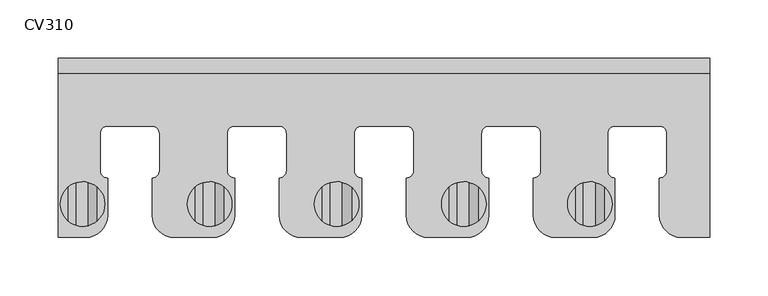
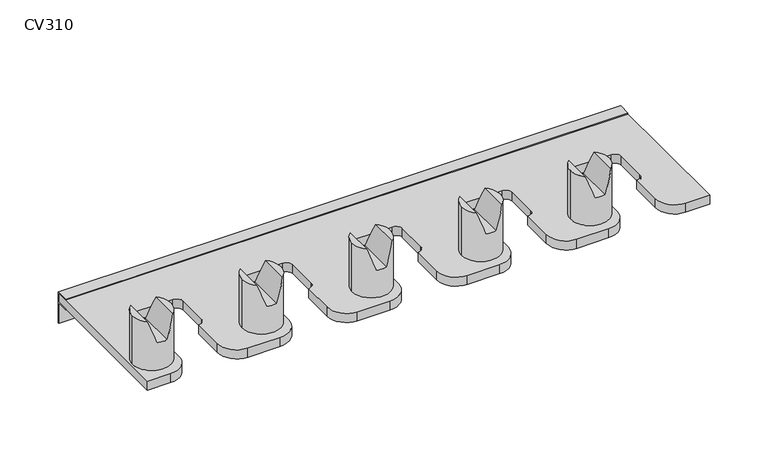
"""IFC4 building model written with IfcOpenShell, lengths in millimetres: furniture geometry, HermanMiller_CoStruc_CV310_EndoscopeBracket : CV310."""

from ifc_helpers import new_model, si_unit, frame, origin, place, context, project, spatial, polyline, circle_curve, ellipse_curve, outline, extrude, source, transform, mapped, element, save
from ifc_brep_helpers import plane_surface, cylinder_surface, revolved_surface, advanced_brep


def cv310_08d24f6f(model_context):
    return source(origin(), model_context, "Body", "SolidModel", [
        extrude(outline(polyline([(-12.699997, 1965.3249516), (-0.793747, 1965.3249516), (-0.793747, 1974.8499516), (-12.699997, 1974.8499516), (-12.699997, 1975.6436531), (0.0, 1975.6436531), (0.0, 1943.1), (-0.793747, 1943.1), (-0.793747, 1964.53125), (-12.699997, 1964.53125), (-12.699997, 1965.3249516)])), frame((-259.8748951, 0.0, 0.0), z_axis=(1.0, 0.0, 0.0), x_axis=(0.0, 1.0, 0.0)), (0.0, 0.0, 1.0), 557.2252),
        advanced_brep(
        [(214.0065557, -124.6187424, 1974.8499516), (175.9065557, -124.6187424, 1974.8499516), (214.0065557, -124.6187424, 2025.6499516), (207.6565249, -110.4196832, 2025.6499516), (207.6565249, -138.8178016, 2025.6499516), (182.2565887, -110.4196812, 2025.6499516), (175.9065557, -124.6187424, 2025.6499516), (182.2565887, -138.8178037, 2025.6499516), (199.7196476, -143.0636728, 2003.4249516), (194.9565557, -143.6687424, 2003.4249516), (189.4003042, -142.8404484, 2003.4249516), (189.4003042, -106.3970364, 2003.4249516), (194.9565557, -105.5687424, 2003.4249516), (199.7196476, -106.1738121, 2003.4249516)],
        [
            (0, 1, circle_curve(frame((194.9565557, -124.6187424, 1974.8499516), z_axis=(0.0, 0.0, -1.0), x_axis=(-1.0, 0.0, 0.0)), 19.05)),
            (1, 0, circle_curve(frame((194.9565557, -124.6187424, 1974.8499516), z_axis=(0.0, 0.0, -1.0), x_axis=(-1.0, 0.0, 0.0)), 19.05)),
            (2, 3, circle_curve(frame((194.9565557, -124.6187424, 2025.6499516), z_axis=(0.0, 0.0, 1.0), x_axis=(-1.0, 0.0, 0.0)), 19.05)),
            (3, 4),
            (4, 2, circle_curve(frame((194.9565557, -124.6187424, 2025.6499516), z_axis=(0.0, 0.0, 1.0), x_axis=(-1.0, 0.0, 0.0)), 19.05)),
            (5, 6, circle_curve(frame((194.9565557, -124.6187424, 2025.6499516), z_axis=(0.0, 0.0, 1.0), x_axis=(-1.0, 0.0, 0.0)), 19.05)),
            (6, 7, circle_curve(frame((194.9565557, -124.6187424, 2025.6499516), z_axis=(0.0, 0.0, 1.0), x_axis=(-1.0, 0.0, 0.0)), 19.05)),
            (7, 5),
            (0, 2),
            (4, 8, ellipse_curve(frame((194.9565557, -124.6187424, 1990.0872477), z_axis=(0.9417502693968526, 0.0, -0.3363129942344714), x_axis=(-0.3363129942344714, 0.0, -0.9417502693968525)), 56.6436633, 19.05)),
            (8, 9, circle_curve(frame((194.9565557, -124.6187424, 2003.4249516), z_axis=(0.0, 0.0, -1.0), x_axis=(-1.0, 0.0, 0.0)), 19.05)),
            (9, 10, circle_curve(frame((194.9565557, -124.6187424, 2003.4249516), z_axis=(0.0, 0.0, -1.0), x_axis=(-1.0, 0.0, 0.0)), 19.05)),
            (10, 7, ellipse_curve(frame((194.9565557, -124.6187424, 1986.1387521), z_axis=(-0.9520289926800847, 0.0, -0.3060078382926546), x_axis=(0.3060078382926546, 0.0, -0.9520289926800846)), 62.2533073, 19.05)),
            (6, 1),
            (5, 11, ellipse_curve(frame((194.9565557, -124.6187424, 1986.1387521), z_axis=(-0.9520289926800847, 0.0, -0.3060078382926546), x_axis=(0.3060078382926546, 0.0, -0.9520289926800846)), 62.2533073, 19.05)),
            (11, 12, circle_curve(frame((194.9565557, -124.6187424, 2003.4249516), z_axis=(0.0, 0.0, -1.0), x_axis=(-1.0, 0.0, 0.0)), 19.05)),
            (12, 13, circle_curve(frame((194.9565557, -124.6187424, 2003.4249516), z_axis=(0.0, 0.0, -1.0), x_axis=(-1.0, 0.0, 0.0)), 19.05)),
            (13, 3, ellipse_curve(frame((194.9565557, -124.6187424, 1990.0872477), z_axis=(0.9417502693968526, 0.0, -0.3363129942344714), x_axis=(-0.3363129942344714, 0.0, -0.9417502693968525)), 56.6436633, 19.05)),
            (13, 8),
            (11, 10),
        ],
        [
            plane_surface(frame((175.9065557, -124.6187424, 1974.8499516), z_axis=(0.0, 0.0, -1.0), x_axis=(0.0, 1.0, 0.0))),
            plane_surface(frame((175.9065557, -124.6187424, 2025.6499516), z_axis=(0.0, 0.0, 1.0), x_axis=(0.0, -1.0, 0.0))),
            cylinder_surface(frame((194.9565557, -124.6187424, 2025.6499516), z_axis=(0.0, 0.0, -1.0), x_axis=(-1.0, 0.0, 0.0)), 19.05),
            plane_surface(frame((207.6565249, -105.5687424, 2025.6499516), z_axis=(-0.9417502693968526, 0.0, 0.3363129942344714), x_axis=(0.0, -1.0, 0.0))),
            plane_surface(frame((199.7196476, -105.5687424, 2003.4249516), z_axis=(0.0, 0.0, 1.0), x_axis=(0.0, -1.0, 0.0))),
            plane_surface(frame((189.4003042, -105.5687424, 2003.4249516), z_axis=(0.9520289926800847, 0.0, 0.3060078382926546), x_axis=(0.0, -1.0, 0.0))),
        ],
        [
            (0, [[1, 2]]),
            (1, [[3, 4, 5]]),
            (1, [[6, 7, 8]]),
            (2, [[-1, 9, -5, 10, 11, 12, 13, -7, 14]]),
            (2, [[-2, -14, -6, 15, 16, 17, 18, -3, -9]]),
            (3, [[19, -10, -4, -18]]),
            (4, [[-19, -17, -16, 20, -12, -11]]),
            (5, [[-20, -15, -8, -13]]),
        ],
    ),
        advanced_brep(
        [(106.0502057, -124.6187424, 1974.8499516), (67.9502057, -124.6187424, 1974.8499516), (106.0502057, -124.6187424, 2025.6499516), (99.7001749, -110.4196832, 2025.6499516), (99.7001749, -138.8178016, 2025.6499516), (74.3002387, -110.4196812, 2025.6499516), (67.9502057, -124.6187424, 2025.6499516), (74.3002387, -138.8178037, 2025.6499516), (91.7632976, -143.0636728, 2003.4249516), (87.0002057, -143.6687424, 2003.4249516), (81.4439542, -142.8404484, 2003.4249516), (81.4439542, -106.3970364, 2003.4249516), (87.0002057, -105.5687424, 2003.4249516), (91.7632976, -106.1738121, 2003.4249516)],
        [
            (0, 1, circle_curve(frame((87.0002057, -124.6187424, 1974.8499516), z_axis=(0.0, 0.0, -1.0), x_axis=(-1.0, 0.0, 0.0)), 19.05)),
            (1, 0, circle_curve(frame((87.0002057, -124.6187424, 1974.8499516), z_axis=(0.0, 0.0, -1.0), x_axis=(-1.0, 0.0, 0.0)), 19.05)),
            (2, 3, circle_curve(frame((87.0002057, -124.6187424, 2025.6499516), z_axis=(0.0, 0.0, 1.0), x_axis=(-1.0, 0.0, 0.0)), 19.05)),
            (3, 4),
            (4, 2, circle_curve(frame((87.0002057, -124.6187424, 2025.6499516), z_axis=(0.0, 0.0, 1.0), x_axis=(-1.0, 0.0, 0.0)), 19.05)),
            (5, 6, circle_curve(frame((87.0002057, -124.6187424, 2025.6499516), z_axis=(0.0, 0.0, 1.0), x_axis=(-1.0, 0.0, 0.0)), 19.05)),
            (6, 7, circle_curve(frame((87.0002057, -124.6187424, 2025.6499516), z_axis=(0.0, 0.0, 1.0), x_axis=(-1.0, 0.0, 0.0)), 19.05)),
            (7, 5),
            (0, 2),
            (4, 8, ellipse_curve(frame((87.0002057, -124.6187424, 1990.0872477), z_axis=(0.9417502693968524, 0.0, -0.3363129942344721), x_axis=(-0.3363129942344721, 0.0, -0.9417502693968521)), 56.6436633, 19.05)),
            (8, 9, circle_curve(frame((87.0002057, -124.6187424, 2003.4249516), z_axis=(0.0, 0.0, -1.0), x_axis=(-1.0, 0.0, 0.0)), 19.05)),
            (9, 10, circle_curve(frame((87.0002057, -124.6187424, 2003.4249516), z_axis=(0.0, 0.0, -1.0), x_axis=(-1.0, 0.0, 0.0)), 19.05)),
            (10, 7, ellipse_curve(frame((87.0002057, -124.6187424, 1986.1387521), z_axis=(-0.9520289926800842, 0.0, -0.3060078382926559), x_axis=(0.30600783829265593, 0.0, -0.9520289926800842)), 62.2533073, 19.05)),
            (6, 1),
            (5, 11, ellipse_curve(frame((87.0002057, -124.6187424, 1986.1387521), z_axis=(-0.9520289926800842, 0.0, -0.3060078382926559), x_axis=(0.30600783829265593, 0.0, -0.9520289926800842)), 62.2533073, 19.05)),
            (11, 12, circle_curve(frame((87.0002057, -124.6187424, 2003.4249516), z_axis=(0.0, 0.0, -1.0), x_axis=(-1.0, 0.0, 0.0)), 19.05)),
            (12, 13, circle_curve(frame((87.0002057, -124.6187424, 2003.4249516), z_axis=(0.0, 0.0, -1.0), x_axis=(-1.0, 0.0, 0.0)), 19.05)),
            (13, 3, ellipse_curve(frame((87.0002057, -124.6187424, 1990.0872477), z_axis=(0.9417502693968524, 0.0, -0.3363129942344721), x_axis=(-0.3363129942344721, 0.0, -0.9417502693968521)), 56.6436633, 19.05)),
            (13, 8),
            (11, 10),
        ],
        [
            plane_surface(frame((67.9502057, -124.6187424, 1974.8499516), z_axis=(0.0, 0.0, -1.0), x_axis=(0.0, 1.0, 0.0))),
            plane_surface(frame((67.9502057, -124.6187424, 2025.6499516), z_axis=(0.0, 0.0, 1.0), x_axis=(0.0, -1.0, 0.0))),
            cylinder_surface(frame((87.0002057, -124.6187424, 2025.6499516), z_axis=(0.0, 0.0, -1.0), x_axis=(-1.0, 0.0, 0.0)), 19.05),
            plane_surface(frame((99.7001749, -105.5687424, 2025.6499516), z_axis=(-0.9417502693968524, 0.0, 0.3363129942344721), x_axis=(0.0, -1.0, 0.0))),
            plane_surface(frame((91.7632976, -105.5687424, 2003.4249516), z_axis=(0.0, 0.0, 1.0), x_axis=(0.0, -1.0, 0.0))),
            plane_surface(frame((81.4439542, -105.5687424, 2003.4249516), z_axis=(0.9520289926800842, 0.0, 0.3060078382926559), x_axis=(0.0, -1.0, 0.0))),
        ],
        [
            (0, [[1, 2]]),
            (1, [[3, 4, 5]]),
            (1, [[6, 7, 8]]),
            (2, [[-1, 9, -5, 10, 11, 12, 13, -7, 14]]),
            (2, [[-2, -14, -6, 15, 16, 17, 18, -3, -9]]),
            (3, [[19, -10, -4, -18]]),
            (4, [[-19, -17, -16, 20, -12, -11]]),
            (5, [[-20, -15, -8, -13]]),
        ],
    ),
        advanced_brep(
        [(-2.6935383, -124.6187424, 1974.8499516), (-40.7935383, -124.6187424, 1974.8499516), (-2.6935383, -124.6187424, 2025.6499516), (-9.0435691, -110.4196832, 2025.6499516), (-9.0435691, -138.8178016, 2025.6499516), (-34.4435052, -110.4196812, 2025.6499516), (-40.7935383, -124.6187424, 2025.6499516), (-34.4435052, -138.8178037, 2025.6499516), (-16.9804463, -143.0636728, 2003.4249516), (-21.7435383, -143.6687424, 2003.4249516), (-27.2997898, -142.8404484, 2003.4249516), (-27.2997898, -106.3970364, 2003.4249516), (-21.7435383, -105.5687424, 2003.4249516), (-16.9804463, -106.1738121, 2003.4249516)],
        [
            (0, 1, circle_curve(frame((-21.7435383, -124.6187424, 1974.8499516), z_axis=(0.0, 0.0, -1.0), x_axis=(-1.0, 0.0, 0.0)), 19.05)),
            (1, 0, circle_curve(frame((-21.7435383, -124.6187424, 1974.8499516), z_axis=(0.0, 0.0, -1.0), x_axis=(-1.0, 0.0, 0.0)), 19.05)),
            (2, 3, circle_curve(frame((-21.7435383, -124.6187424, 2025.6499516), z_axis=(0.0, 0.0, 1.0), x_axis=(-1.0, 0.0, 0.0)), 19.05)),
            (3, 4),
            (4, 2, circle_curve(frame((-21.7435383, -124.6187424, 2025.6499516), z_axis=(0.0, 0.0, 1.0), x_axis=(-1.0, 0.0, 0.0)), 19.05)),
            (5, 6, circle_curve(frame((-21.7435383, -124.6187424, 2025.6499516), z_axis=(0.0, 0.0, 1.0), x_axis=(-1.0, 0.0, 0.0)), 19.05)),
            (6, 7, circle_curve(frame((-21.7435383, -124.6187424, 2025.6499516), z_axis=(0.0, 0.0, 1.0), x_axis=(-1.0, 0.0, 0.0)), 19.05)),
            (7, 5),
            (0, 2),
            (4, 8, ellipse_curve(frame((-21.7435383, -124.6187424, 1990.0872477), z_axis=(0.9417502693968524, 0.0, -0.33631299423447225), x_axis=(-0.3363129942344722, 0.0, -0.9417502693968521)), 56.6436633, 19.05)),
            (8, 9, circle_curve(frame((-21.7435383, -124.6187424, 2003.4249516), z_axis=(0.0, 0.0, -1.0), x_axis=(-1.0, 0.0, 0.0)), 19.05)),
            (9, 10, circle_curve(frame((-21.7435383, -124.6187424, 2003.4249516), z_axis=(0.0, 0.0, -1.0), x_axis=(-1.0, 0.0, 0.0)), 19.05)),
            (10, 7, ellipse_curve(frame((-21.7435383, -124.6187424, 1986.1387521), z_axis=(-0.9520289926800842, 0.0, -0.3060078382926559), x_axis=(0.30600783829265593, 0.0, -0.9520289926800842)), 62.2533073, 19.05)),
            (6, 1),
            (5, 11, ellipse_curve(frame((-21.7435383, -124.6187424, 1986.1387521), z_axis=(-0.9520289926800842, 0.0, -0.3060078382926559), x_axis=(0.30600783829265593, 0.0, -0.9520289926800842)), 62.2533073, 19.05)),
            (11, 12, circle_curve(frame((-21.7435383, -124.6187424, 2003.4249516), z_axis=(0.0, 0.0, -1.0), x_axis=(-1.0, 0.0, 0.0)), 19.05)),
            (12, 13, circle_curve(frame((-21.7435383, -124.6187424, 2003.4249516), z_axis=(0.0, 0.0, -1.0), x_axis=(-1.0, 0.0, 0.0)), 19.05)),
            (13, 3, ellipse_curve(frame((-21.7435383, -124.6187424, 1990.0872477), z_axis=(0.9417502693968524, 0.0, -0.33631299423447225), x_axis=(-0.3363129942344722, 0.0, -0.9417502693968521)), 56.6436633, 19.05)),
            (13, 8),
            (11, 10),
        ],
        [
            plane_surface(frame((-40.7935383, -124.6187424, 1974.8499516), z_axis=(0.0, 0.0, -1.0), x_axis=(0.0, 1.0, 0.0))),
            plane_surface(frame((-40.7935383, -124.6187424, 2025.6499516), z_axis=(0.0, 0.0, 1.0), x_axis=(0.0, -1.0, 0.0))),
            cylinder_surface(frame((-21.7435383, -124.6187424, 2025.6499516), z_axis=(0.0, 0.0, -1.0), x_axis=(-1.0, 0.0, 0.0)), 19.05),
            plane_surface(frame((-9.0435691, -105.5687424, 2025.6499516), z_axis=(-0.9417502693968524, 0.0, 0.33631299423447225), x_axis=(0.0, -1.0, 0.0))),
            plane_surface(frame((-16.9804463, -105.5687424, 2003.4249516), z_axis=(0.0, 0.0, 1.0), x_axis=(0.0, -1.0, 0.0))),
            plane_surface(frame((-27.2997898, -105.5687424, 2003.4249516), z_axis=(0.9520289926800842, 0.0, 0.3060078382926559), x_axis=(0.0, -1.0, 0.0))),
        ],
        [
            (0, [[1, 2]]),
            (1, [[3, 4, 5]]),
            (1, [[6, 7, 8]]),
            (2, [[-1, 9, -5, 10, 11, 12, 13, -7, 14]]),
            (2, [[-2, -14, -6, 15, 16, 17, 18, -3, -9]]),
            (3, [[19, -10, -4, -18]]),
            (4, [[-19, -17, -16, 20, -12, -11]]),
            (5, [[-20, -15, -8, -13]]),
        ],
    ),
        advanced_brep(
        [(-111.4436504, -124.6187424, 1974.8499516), (-149.5436504, -124.6187424, 1974.8499516), (-111.4436504, -124.6187424, 2025.6499516), (-117.7873312, -110.4253654, 2025.6499516), (-117.7873312, -138.8121195, 2025.6499516), (-143.1872673, -110.4140042, 2025.6499516), (-149.5436504, -124.6187424, 2025.6499516), (-143.1872673, -138.8234807, 2025.6499516), (-125.7242084, -143.0620318, 2003.4249516), (-130.4936504, -143.6687424, 2003.4249516), (-136.0435519, -142.8423835, 2003.4249516), (-136.0435519, -106.3951014, 2003.4249516), (-130.4936504, -105.5687424, 2003.4249516), (-125.7242084, -106.175453, 2003.4249516)],
        [
            (0, 1, circle_curve(frame((-130.4936504, -124.6187424, 1974.8499516), z_axis=(0.0, 0.0, -1.0), x_axis=(-1.0, 0.0, 0.0)), 19.05)),
            (1, 0, circle_curve(frame((-130.4936504, -124.6187424, 1974.8499516), z_axis=(0.0, 0.0, -1.0), x_axis=(-1.0, 0.0, 0.0)), 19.05)),
            (2, 3, circle_curve(frame((-130.4936504, -124.6187424, 2025.6499516), z_axis=(0.0, 0.0, 1.0), x_axis=(-1.0, 0.0, 0.0)), 19.05)),
            (3, 4),
            (4, 2, circle_curve(frame((-130.4936504, -124.6187424, 2025.6499516), z_axis=(0.0, 0.0, 1.0), x_axis=(-1.0, 0.0, 0.0)), 19.05)),
            (5, 6, circle_curve(frame((-130.4936504, -124.6187424, 2025.6499516), z_axis=(0.0, 0.0, 1.0), x_axis=(-1.0, 0.0, 0.0)), 19.05)),
            (6, 7, circle_curve(frame((-130.4936504, -124.6187424, 2025.6499516), z_axis=(0.0, 0.0, 1.0), x_axis=(-1.0, 0.0, 0.0)), 19.05)),
            (7, 5),
            (0, 2),
            (4, 8, ellipse_curve(frame((-130.4936504, -124.6187424, 1990.0694663), z_axis=(0.9417502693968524, 0.0, -0.3363129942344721), x_axis=(-0.3363129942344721, 0.0, -0.9417502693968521)), 56.6436633, 19.05)),
            (8, 9, circle_curve(frame((-130.4936504, -124.6187424, 2003.4249516), z_axis=(0.0, 0.0, -1.0), x_axis=(-1.0, 0.0, 0.0)), 19.05)),
            (9, 10, circle_curve(frame((-130.4936504, -124.6187424, 2003.4249516), z_axis=(0.0, 0.0, -1.0), x_axis=(-1.0, 0.0, 0.0)), 19.05)),
            (10, 7, ellipse_curve(frame((-130.4936504, -124.6187424, 1986.1585077), z_axis=(-0.9520289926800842, 0.0, -0.3060078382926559), x_axis=(0.30600783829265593, 0.0, -0.9520289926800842)), 62.2533073, 19.05)),
            (6, 1),
            (5, 11, ellipse_curve(frame((-130.4936504, -124.6187424, 1986.1585077), z_axis=(-0.9520289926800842, 0.0, -0.3060078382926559), x_axis=(0.30600783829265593, 0.0, -0.9520289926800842)), 62.2533073, 19.05)),
            (11, 12, circle_curve(frame((-130.4936504, -124.6187424, 2003.4249516), z_axis=(0.0, 0.0, -1.0), x_axis=(-1.0, 0.0, 0.0)), 19.05)),
            (12, 13, circle_curve(frame((-130.4936504, -124.6187424, 2003.4249516), z_axis=(0.0, 0.0, -1.0), x_axis=(-1.0, 0.0, 0.0)), 19.05)),
            (13, 3, ellipse_curve(frame((-130.4936504, -124.6187424, 1990.0694663), z_axis=(0.9417502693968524, 0.0, -0.3363129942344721), x_axis=(-0.3363129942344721, 0.0, -0.9417502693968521)), 56.6436633, 19.05)),
            (13, 8),
            (11, 10),
        ],
        [
            plane_surface(frame((-149.5436504, -124.6187424, 1974.8499516), z_axis=(0.0, 0.0, -1.0), x_axis=(0.0, 1.0, 0.0))),
            plane_surface(frame((-149.5436504, -124.6187424, 2025.6499516), z_axis=(0.0, 0.0, 1.0), x_axis=(0.0, -1.0, 0.0))),
            cylinder_surface(frame((-130.4936504, -124.6187424, 2025.6499516), z_axis=(0.0, 0.0, -1.0), x_axis=(-1.0, 0.0, 0.0)), 19.05),
            plane_surface(frame((-117.7873312, -105.5687424, 2025.6499516), z_axis=(-0.9417502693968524, 0.0, 0.3363129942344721), x_axis=(0.0, -1.0, 0.0))),
            plane_surface(frame((-125.7242084, -105.5687424, 2003.4249516), z_axis=(0.0, 0.0, 1.0), x_axis=(0.0, -1.0, 0.0))),
            plane_surface(frame((-136.0435519, -105.5687424, 2003.4249516), z_axis=(0.9520289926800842, 0.0, 0.3060078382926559), x_axis=(0.0, -1.0, 0.0))),
        ],
        [
            (0, [[1, 2]]),
            (1, [[3, 4, 5]]),
            (1, [[6, 7, 8]]),
            (2, [[-1, 9, -5, 10, 11, 12, 13, -7, 14]]),
            (2, [[-2, -14, -6, 15, 16, 17, 18, -3, -9]]),
            (3, [[19, -10, -4, -18]]),
            (4, [[-19, -17, -16, 20, -12, -11]]),
            (5, [[-20, -15, -8, -13]]),
        ],
    ),
        advanced_brep(
        [(-220.1873943, -124.6187424, 1974.8499516), (-258.2873943, -124.6187424, 1974.8499516), (-220.1873943, -124.6187424, 2025.6499516), (-226.5374251, -110.4196832, 2025.6499516), (-226.5374251, -138.8178016, 2025.6499516), (-251.9373613, -110.4196812, 2025.6499516), (-258.2873943, -124.6187424, 2025.6499516), (-251.9373613, -138.8178037, 2025.6499516), (-234.4743024, -143.0636728, 2003.4249516), (-239.2373943, -143.6687424, 2003.4249516), (-244.7936458, -142.8404484, 2003.4249516), (-244.7936458, -106.3970364, 2003.4249516), (-239.2373943, -105.5687424, 2003.4249516), (-234.4743024, -106.1738121, 2003.4249516)],
        [
            (0, 1, circle_curve(frame((-239.2373943, -124.6187424, 1974.8499516), z_axis=(0.0, 0.0, -1.0), x_axis=(-1.0, 0.0, 0.0)), 19.05)),
            (1, 0, circle_curve(frame((-239.2373943, -124.6187424, 1974.8499516), z_axis=(0.0, 0.0, -1.0), x_axis=(-1.0, 0.0, 0.0)), 19.05)),
            (2, 3, circle_curve(frame((-239.2373943, -124.6187424, 2025.6499516), z_axis=(0.0, 0.0, 1.0), x_axis=(-1.0, 0.0, 0.0)), 19.05)),
            (3, 4),
            (4, 2, circle_curve(frame((-239.2373943, -124.6187424, 2025.6499516), z_axis=(0.0, 0.0, 1.0), x_axis=(-1.0, 0.0, 0.0)), 19.05)),
            (5, 6, circle_curve(frame((-239.2373943, -124.6187424, 2025.6499516), z_axis=(0.0, 0.0, 1.0), x_axis=(-1.0, 0.0, 0.0)), 19.05)),
            (6, 7, circle_curve(frame((-239.2373943, -124.6187424, 2025.6499516), z_axis=(0.0, 0.0, 1.0), x_axis=(-1.0, 0.0, 0.0)), 19.05)),
            (7, 5),
            (0, 2),
            (4, 8, ellipse_curve(frame((-239.2373943, -124.6187424, 1990.0872477), z_axis=(0.9417502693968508, 0.0, -0.3363129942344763), x_axis=(-0.3363129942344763, 0.0, -0.9417502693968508)), 56.6436633, 19.05)),
            (8, 9, circle_curve(frame((-239.2373943, -124.6187424, 2003.4249516), z_axis=(0.0, 0.0, -1.0), x_axis=(-1.0, 0.0, 0.0)), 19.05)),
            (9, 10, circle_curve(frame((-239.2373943, -124.6187424, 2003.4249516), z_axis=(0.0, 0.0, -1.0), x_axis=(-1.0, 0.0, 0.0)), 19.05)),
            (10, 7, ellipse_curve(frame((-239.2373943, -124.6187424, 1986.1387521), z_axis=(-0.9520289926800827, 0.0, -0.30600783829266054), x_axis=(0.3060078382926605, 0.0, -0.9520289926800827)), 62.2533073, 19.05)),
            (6, 1),
            (5, 11, ellipse_curve(frame((-239.2373943, -124.6187424, 1986.1387521), z_axis=(-0.9520289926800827, 0.0, -0.30600783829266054), x_axis=(0.3060078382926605, 0.0, -0.9520289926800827)), 62.2533073, 19.05)),
            (11, 12, circle_curve(frame((-239.2373943, -124.6187424, 2003.4249516), z_axis=(0.0, 0.0, -1.0), x_axis=(-1.0, 0.0, 0.0)), 19.05)),
            (12, 13, circle_curve(frame((-239.2373943, -124.6187424, 2003.4249516), z_axis=(0.0, 0.0, -1.0), x_axis=(-1.0, 0.0, 0.0)), 19.05)),
            (13, 3, ellipse_curve(frame((-239.2373943, -124.6187424, 1990.0872477), z_axis=(0.9417502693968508, 0.0, -0.3363129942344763), x_axis=(-0.3363129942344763, 0.0, -0.9417502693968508)), 56.6436633, 19.05)),
            (13, 8),
            (11, 10),
        ],
        [
            plane_surface(frame((-258.2873943, -124.6187424, 1974.8499516), z_axis=(0.0, 0.0, -1.0), x_axis=(0.0, 1.0, 0.0))),
            plane_surface(frame((-258.2873943, -124.6187424, 2025.6499516), z_axis=(0.0, 0.0, 1.0), x_axis=(0.0, -1.0, 0.0))),
            cylinder_surface(frame((-239.2373943, -124.6187424, 2025.6499516), z_axis=(0.0, 0.0, -1.0), x_axis=(-1.0, 0.0, 0.0)), 19.05),
            plane_surface(frame((-226.5374251, -105.5687424, 2025.6499516), z_axis=(-0.9417502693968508, 0.0, 0.3363129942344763), x_axis=(0.0, -1.0, 0.0))),
            plane_surface(frame((-234.4743024, -105.5687424, 2003.4249516), z_axis=(0.0, 0.0, 1.0), x_axis=(0.0, -1.0, 0.0))),
            plane_surface(frame((-244.7936458, -105.5687424, 2003.4249516), z_axis=(0.9520289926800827, 0.0, 0.30600783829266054), x_axis=(0.0, -1.0, 0.0))),
        ],
        [
            (0, [[1, 2]]),
            (1, [[3, 4, 5]]),
            (1, [[6, 7, 8]]),
            (2, [[-1, 9, -5, 10, 11, 12, 13, -7, 14]]),
            (2, [[-2, -14, -6, 15, 16, 17, 18, -3, -9]]),
            (3, [[19, -10, -4, -18]]),
            (4, [[-19, -17, -16, 20, -12, -11]]),
            (5, [[-20, -15, -8, -13]]),
        ],
    ),
        advanced_brep(
        [(-259.8748951, -153.1874, 1965.3249516), (-259.8748951, -0.793747, 1965.3249516), (297.3503049, -0.793747, 1965.3249516), (297.3503049, -153.1874, 1965.3249516), (273.5378072, -153.1874, 1965.3249516), (254.4941572, -134.14375, 1965.3249516), (254.4941557, -102.3937515, 1965.3249516), (260.8378057, -96.0501015, 1965.3249516), (260.8378057, -64.287397, 1965.3249516), (254.4878057, -57.937397, 1965.3249516), (216.3878072, -57.937397, 1965.3249516), (210.0378072, -64.287397, 1965.3249516), (210.0378072, -96.0374015, 1965.3249516), (216.3878057, -102.3874015, 1965.3249516), (216.3878057, -134.1374, 1965.3249516), (197.3378057, -153.1874, 1965.3249516), (165.5878072, -153.1874, 1965.3249516), (146.5441572, -134.14375, 1965.3249516), (146.5441557, -102.3937515, 1965.3249516), (152.8878057, -96.0501015, 1965.3249516), (152.8878057, -64.300097, 1965.3249516), (146.5378057, -57.950097, 1965.3249516), (108.4378072, -57.950097, 1965.3249516), (102.0878072, -64.300097, 1965.3249516), (102.0878072, -96.0437515, 1965.3249516), (108.4378057, -102.3937515, 1965.3249516), (108.4378057, -134.14375, 1965.3249516), (89.3941557, -153.1874, 1965.3249516), (56.8504132, -153.1874, 1965.3249516), (37.8067632, -134.14375, 1965.3249516), (37.7877117, -102.3937515, 1965.3249516), (44.1377117, -96.0437515, 1965.3249516), (44.1377117, -64.293747, 1965.3249516), (37.7877117, -57.943747, 1965.3249516), (-0.3122868, -57.943747, 1965.3249516), (-6.6622868, -64.293747, 1965.3249516), (-6.6622868, -96.0437515, 1965.3249516), (-0.3122883, -102.3937515, 1965.3249516), (-0.3122883, -134.14375, 1965.3249516), (-19.3559383, -153.1874, 1965.3249516), (-51.8996989, -153.1874, 1965.3249516), (-70.9433489, -134.14375, 1965.3249516), (-70.9433504, -102.3937515, 1965.3249516), (-64.6060504, -96.0564515, 1965.3249516), (-64.6060504, -64.306447, 1965.3249516), (-70.9560504, -57.956447, 1965.3249516), (-109.0560489, -57.956447, 1965.3249516), (-115.4060489, -64.306447, 1965.3249516), (-115.4060489, -96.0437515, 1965.3249516), (-109.0560504, -102.3937515, 1965.3249516), (-109.0560504, -134.14375, 1965.3249516), (-128.0997004, -153.1874, 1965.3249516), (-160.6434428, -153.1874, 1965.3249516), (-179.6870928, -134.14375, 1965.3249516), (-179.6870943, -102.3937515, 1965.3249516), (-173.3370943, -96.0437515, 1965.3249516), (-173.3370943, -64.293747, 1965.3249516), (-179.6870943, -57.943747, 1965.3249516), (-217.7870928, -57.943747, 1965.3249516), (-224.1370928, -64.293747, 1965.3249516), (-224.1370928, -96.0437515, 1965.3249516), (-217.7870943, -102.3937515, 1965.3249516), (-217.7870943, -134.14375, 1965.3249516), (-236.8307443, -153.1874, 1965.3249516), (-259.8748951, -153.1874, 1974.8499516), (-236.8307443, -153.1874, 1974.8499516), (-217.7870943, -134.14375, 1974.8499516), (-217.7870943, -102.3937515, 1974.8499516), (-224.1370928, -96.0437515, 1974.8499516), (-224.1370928, -64.293747, 1974.8499516), (-217.7870928, -57.943747, 1974.8499516), (-179.6870943, -57.943747, 1974.8499516), (-173.3370943, -64.293747, 1974.8499516), (-173.3370943, -96.0437515, 1974.8499516), (-179.6870943, -102.3937515, 1974.8499516), (-179.6870943, -134.1437424, 1974.8499516), (-160.6434428, -153.1874, 1974.8499516), (-128.0997004, -153.1874, 1974.8499516), (-109.0560504, -134.14375, 1974.8499516), (-109.0560504, -102.3937515, 1974.8499516), (-115.4060489, -96.0437515, 1974.8499516), (-115.4060489, -64.306447, 1974.8499516), (-109.0560489, -57.956447, 1974.8499516), (-70.9560504, -57.956447, 1974.8499516), (-64.6060504, -64.306447, 1974.8499516), (-64.6060504, -96.0564515, 1974.8499516), (-70.9433504, -102.3937515, 1974.8499516), (-70.9433504, -134.1437424, 1974.8499516), (-51.8996989, -153.1874, 1974.8499516), (-19.3559383, -153.1874, 1974.8499516), (-0.3122883, -134.14375, 1974.8499516), (-0.3122883, -102.3937515, 1974.8499516), (-6.6622868, -96.0437515, 1974.8499516), (-6.6622868, -64.293747, 1974.8499516), (-0.3122868, -57.943747, 1974.8499516), (37.7877117, -57.943747, 1974.8499516), (44.1377117, -64.293747, 1974.8499516), (44.1377117, -96.0437515, 1974.8499516), (37.7877117, -102.3937515, 1974.8499516), (37.7877117, -134.1437424, 1974.8499516), (56.8504132, -153.1874, 1974.8499516), (89.3941557, -153.1874, 1974.8499516), (108.4378057, -134.14375, 1974.8499516), (108.4378057, -102.3937515, 1974.8499516), (102.0878072, -96.0437515, 1974.8499516), (102.0878072, -64.300097, 1974.8499516), (108.4378072, -57.950097, 1974.8499516), (146.5378057, -57.950097, 1974.8499516), (152.8878057, -64.300097, 1974.8499516), (152.8878057, -96.0501015, 1974.8499516), (146.5441557, -102.3937515, 1974.8499516), (146.5441557, -134.1437424, 1974.8499516), (165.5878072, -153.1874, 1974.8499516), (197.3378057, -153.1874, 1974.8499516), (216.3878057, -134.1374, 1974.8499516), (216.3878057, -102.3874015, 1974.8499516), (210.0378072, -96.0374015, 1974.8499516), (210.0378072, -64.287397, 1974.8499516), (216.3878072, -57.937397, 1974.8499516), (254.4878057, -57.937397, 1974.8499516), (260.8378057, -64.287397, 1974.8499516), (260.8378057, -96.0501015, 1974.8499516), (254.4941557, -102.3937515, 1974.8499516), (254.4941557, -134.1437424, 1974.8499516), (273.5378072, -153.1874, 1974.8499516), (297.3503049, -153.1874, 1974.8499516), (297.3503049, -0.793747, 1974.8499516), (-259.8748951, -0.793747, 1974.8499516)],
        [
            (0, 1),
            (1, 2),
            (2, 3),
            (3, 4),
            (4, 5, circle_curve(frame((273.5378072, -134.14375, 1965.3249516), z_axis=(0.0, 0.0, -1.0), x_axis=(-1.0, 0.0, 0.0)), 19.04365)),
            (5, 6),
            (6, 7, circle_curve(frame((254.4941557, -96.0501015, 1965.3249516), z_axis=(0.0, 0.0, 1.0), x_axis=(-1.0, 0.0, 0.0)), 6.34365)),
            (7, 8),
            (8, 9, circle_curve(frame((254.4878057, -64.287397, 1965.3249516), z_axis=(0.0, 0.0, 1.0), x_axis=(-1.0, 0.0, 0.0)), 6.35)),
            (9, 10),
            (10, 11, circle_curve(frame((216.3878072, -64.287397, 1965.3249516), z_axis=(0.0, 0.0, 1.0), x_axis=(-1.0, 0.0, 0.0)), 6.35)),
            (11, 12),
            (12, 13, circle_curve(frame((216.3878072, -96.0374015, 1965.3249516), z_axis=(0.0, 0.0, 1.0), x_axis=(-1.0, 0.0, 0.0)), 6.35)),
            (13, 14),
            (14, 15, circle_curve(frame((197.3378057, -134.1374, 1965.3249516), z_axis=(0.0, 0.0, -1.0), x_axis=(-1.0, 0.0, 0.0)), 19.05)),
            (15, 16),
            (16, 17, circle_curve(frame((165.5878072, -134.14375, 1965.3249516), z_axis=(0.0, 0.0, -1.0), x_axis=(-1.0, 0.0, 0.0)), 19.04365)),
            (17, 18),
            (18, 19, circle_curve(frame((146.5441557, -96.0501015, 1965.3249516), z_axis=(0.0, 0.0, 1.0), x_axis=(-1.0, 0.0, 0.0)), 6.34365)),
            (19, 20),
            (20, 21, circle_curve(frame((146.5378057, -64.300097, 1965.3249516), z_axis=(0.0, 0.0, 1.0), x_axis=(-1.0, 0.0, 0.0)), 6.35)),
            (21, 22),
            (22, 23, circle_curve(frame((108.4378072, -64.300097, 1965.3249516), z_axis=(0.0, 0.0, 1.0), x_axis=(-1.0, 0.0, 0.0)), 6.35)),
            (23, 24),
            (24, 25, circle_curve(frame((108.4378072, -96.0437515, 1965.3249516), z_axis=(0.0, 0.0, 1.0), x_axis=(-1.0, 0.0, 0.0)), 6.35)),
            (25, 26),
            (26, 27, circle_curve(frame((89.3941557, -134.14375, 1965.3249516), z_axis=(0.0, 0.0, -1.0), x_axis=(-1.0, 0.0, 0.0)), 19.04365)),
            (27, 28),
            (28, 29, circle_curve(frame((56.8504132, -134.14375, 1965.3249516), z_axis=(0.0, 0.0, -1.0), x_axis=(-1.0, 0.0, 0.0)), 19.04365)),
            (29, 30),
            (30, 31, circle_curve(frame((37.7877117, -96.0437515, 1965.3249516), z_axis=(0.0, 0.0, 1.0), x_axis=(-1.0, 0.0, 0.0)), 6.35)),
            (31, 32),
            (32, 33, circle_curve(frame((37.7877117, -64.293747, 1965.3249516), z_axis=(0.0, 0.0, 1.0), x_axis=(-1.0, 0.0, 0.0)), 6.35)),
            (33, 34),
            (34, 35, circle_curve(frame((-0.3122868, -64.293747, 1965.3249516), z_axis=(0.0, 0.0, 1.0), x_axis=(-1.0, 0.0, 0.0)), 6.35)),
            (35, 36),
            (36, 37, circle_curve(frame((-0.3122868, -96.0437515, 1965.3249516), z_axis=(0.0, 0.0, 1.0), x_axis=(-1.0, 0.0, 0.0)), 6.35)),
            (37, 38),
            (38, 39, circle_curve(frame((-19.3559383, -134.14375, 1965.3249516), z_axis=(0.0, 0.0, -1.0), x_axis=(-1.0, 0.0, 0.0)), 19.04365)),
            (39, 40),
            (40, 41, circle_curve(frame((-51.8996989, -134.14375, 1965.3249516), z_axis=(0.0, 0.0, -1.0), x_axis=(-1.0, 0.0, 0.0)), 19.04365)),
            (41, 42),
            (42, 43, circle_curve(frame((-70.9433504, -96.0564515, 1965.3249516), z_axis=(0.0, 0.0, 1.0), x_axis=(-1.0, 0.0, 0.0)), 6.3373)),
            (43, 44),
            (44, 45, circle_curve(frame((-70.9560504, -64.306447, 1965.3249516), z_axis=(0.0, 0.0, 1.0), x_axis=(-1.0, 0.0, 0.0)), 6.35)),
            (45, 46),
            (46, 47, circle_curve(frame((-109.0560489, -64.306447, 1965.3249516), z_axis=(0.0, 0.0, 1.0), x_axis=(-1.0, 0.0, 0.0)), 6.35)),
            (47, 48),
            (48, 49, circle_curve(frame((-109.0560489, -96.0437515, 1965.3249516), z_axis=(0.0, 0.0, 1.0), x_axis=(-1.0, 0.0, 0.0)), 6.35)),
            (49, 50),
            (50, 51, circle_curve(frame((-128.0997004, -134.14375, 1965.3249516), z_axis=(0.0, 0.0, -1.0), x_axis=(-1.0, 0.0, 0.0)), 19.04365)),
            (51, 52),
            (52, 53, circle_curve(frame((-160.6434428, -134.14375, 1965.3249516), z_axis=(0.0, 0.0, -1.0), x_axis=(-1.0, 0.0, 0.0)), 19.04365)),
            (53, 54),
            (54, 55, circle_curve(frame((-179.6870943, -96.0437515, 1965.3249516), z_axis=(0.0, 0.0, 1.0), x_axis=(-1.0, 0.0, 0.0)), 6.35)),
            (55, 56),
            (56, 57, circle_curve(frame((-179.6870943, -64.293747, 1965.3249516), z_axis=(0.0, 0.0, 1.0), x_axis=(-1.0, 0.0, 0.0)), 6.35)),
            (57, 58),
            (58, 59, circle_curve(frame((-217.7870928, -64.293747, 1965.3249516), z_axis=(0.0, 0.0, 1.0), x_axis=(-1.0, 0.0, 0.0)), 6.35)),
            (59, 60),
            (60, 61, circle_curve(frame((-217.7870928, -96.0437515, 1965.3249516), z_axis=(0.0, 0.0, 1.0), x_axis=(-1.0, 0.0, 0.0)), 6.35)),
            (61, 62),
            (62, 63, circle_curve(frame((-236.8307443, -134.14375, 1965.3249516), z_axis=(0.0, 0.0, -1.0), x_axis=(-1.0, 0.0, 0.0)), 19.04365)),
            (63, 0),
            (64, 65),
            (65, 66, circle_curve(frame((-236.8307443, -134.14375, 1974.8499516), z_axis=(0.0, 0.0, 1.0), x_axis=(-1.0, 0.0, 0.0)), 19.04365)),
            (66, 67),
            (67, 68, circle_curve(frame((-217.7870928, -96.0437515, 1974.8499516), z_axis=(0.0, 0.0, -1.0), x_axis=(-1.0, 0.0, 0.0)), 6.35)),
            (68, 69),
            (69, 70, circle_curve(frame((-217.7870928, -64.293747, 1974.8499516), z_axis=(0.0, 0.0, -1.0), x_axis=(-1.0, 0.0, 0.0)), 6.35)),
            (70, 71),
            (71, 72, circle_curve(frame((-179.6870943, -64.293747, 1974.8499516), z_axis=(0.0, 0.0, -1.0), x_axis=(-1.0, 0.0, 0.0)), 6.35)),
            (72, 73),
            (73, 74, circle_curve(frame((-179.6870943, -96.0437515, 1974.8499516), z_axis=(0.0, 0.0, -1.0), x_axis=(-1.0, 0.0, 0.0)), 6.35)),
            (74, 75),
            (75, 76, circle_curve(frame((-160.6434428, -134.14375, 1974.8499516), z_axis=(0.0, 0.0, 1.0), x_axis=(-1.0, 0.0, 0.0)), 19.04365)),
            (76, 77),
            (77, 78, circle_curve(frame((-128.0997004, -134.14375, 1974.8499516), z_axis=(0.0, 0.0, 1.0), x_axis=(-1.0, 0.0, 0.0)), 19.04365)),
            (78, 79),
            (79, 80, circle_curve(frame((-109.0560489, -96.0437515, 1974.8499516), z_axis=(0.0, 0.0, -1.0), x_axis=(-1.0, 0.0, 0.0)), 6.35)),
            (80, 81),
            (81, 82, circle_curve(frame((-109.0560489, -64.306447, 1974.8499516), z_axis=(0.0, 0.0, -1.0), x_axis=(-1.0, 0.0, 0.0)), 6.35)),
            (82, 83),
            (83, 84, circle_curve(frame((-70.9560504, -64.306447, 1974.8499516), z_axis=(0.0, 0.0, -1.0), x_axis=(-1.0, 0.0, 0.0)), 6.35)),
            (84, 85),
            (85, 86, circle_curve(frame((-70.9433504, -96.0564515, 1974.8499516), z_axis=(0.0, 0.0, -1.0), x_axis=(-1.0, 0.0, 0.0)), 6.3373)),
            (86, 87),
            (87, 88, circle_curve(frame((-51.8996989, -134.14375, 1974.8499516), z_axis=(0.0, 0.0, 1.0), x_axis=(-1.0, 0.0, 0.0)), 19.04365)),
            (88, 89),
            (89, 90, circle_curve(frame((-19.3559383, -134.14375, 1974.8499516), z_axis=(0.0, 0.0, 1.0), x_axis=(-1.0, 0.0, 0.0)), 19.04365)),
            (90, 91),
            (91, 92, circle_curve(frame((-0.3122868, -96.0437515, 1974.8499516), z_axis=(0.0, 0.0, -1.0), x_axis=(-1.0, 0.0, 0.0)), 6.35)),
            (92, 93),
            (93, 94, circle_curve(frame((-0.3122868, -64.293747, 1974.8499516), z_axis=(0.0, 0.0, -1.0), x_axis=(-1.0, 0.0, 0.0)), 6.35)),
            (94, 95),
            (95, 96, circle_curve(frame((37.7877117, -64.293747, 1974.8499516), z_axis=(0.0, 0.0, -1.0), x_axis=(-1.0, 0.0, 0.0)), 6.35)),
            (96, 97),
            (97, 98, circle_curve(frame((37.7877117, -96.0437515, 1974.8499516), z_axis=(0.0, 0.0, -1.0), x_axis=(-1.0, 0.0, 0.0)), 6.35)),
            (98, 99),
            (99, 100, circle_curve(frame((56.8504132, -134.14375, 1974.8499516), z_axis=(0.0, 0.0, 1.0), x_axis=(-1.0, 0.0, 0.0)), 19.04365)),
            (100, 101),
            (101, 102, circle_curve(frame((89.3941557, -134.14375, 1974.8499516), z_axis=(0.0, 0.0, 1.0), x_axis=(-1.0, 0.0, 0.0)), 19.04365)),
            (102, 103),
            (103, 104, circle_curve(frame((108.4378072, -96.0437515, 1974.8499516), z_axis=(0.0, 0.0, -1.0), x_axis=(-1.0, 0.0, 0.0)), 6.35)),
            (104, 105),
            (105, 106, circle_curve(frame((108.4378072, -64.300097, 1974.8499516), z_axis=(0.0, 0.0, -1.0), x_axis=(-1.0, 0.0, 0.0)), 6.35)),
            (106, 107),
            (107, 108, circle_curve(frame((146.5378057, -64.300097, 1974.8499516), z_axis=(0.0, 0.0, -1.0), x_axis=(-1.0, 0.0, 0.0)), 6.35)),
            (108, 109),
            (109, 110, circle_curve(frame((146.5441557, -96.0501015, 1974.8499516), z_axis=(0.0, 0.0, -1.0), x_axis=(-1.0, 0.0, 0.0)), 6.34365)),
            (110, 111),
            (111, 112, circle_curve(frame((165.5878072, -134.14375, 1974.8499516), z_axis=(0.0, 0.0, 1.0), x_axis=(-1.0, 0.0, 0.0)), 19.04365)),
            (112, 113),
            (113, 114, circle_curve(frame((197.3378057, -134.1374, 1974.8499516), z_axis=(0.0, 0.0, 1.0), x_axis=(-1.0, 0.0, 0.0)), 19.05)),
            (114, 115),
            (115, 116, circle_curve(frame((216.3878072, -96.0374015, 1974.8499516), z_axis=(0.0, 0.0, -1.0), x_axis=(-1.0, 0.0, 0.0)), 6.35)),
            (116, 117),
            (117, 118, circle_curve(frame((216.3878072, -64.287397, 1974.8499516), z_axis=(0.0, 0.0, -1.0), x_axis=(-1.0, 0.0, 0.0)), 6.35)),
            (118, 119),
            (119, 120, circle_curve(frame((254.4878057, -64.287397, 1974.8499516), z_axis=(0.0, 0.0, -1.0), x_axis=(-1.0, 0.0, 0.0)), 6.35)),
            (120, 121),
            (121, 122, circle_curve(frame((254.4941557, -96.0501015, 1974.8499516), z_axis=(0.0, 0.0, -1.0), x_axis=(-1.0, 0.0, 0.0)), 6.34365)),
            (122, 123),
            (123, 124, circle_curve(frame((273.5378072, -134.14375, 1974.8499516), z_axis=(0.0, 0.0, 1.0), x_axis=(-1.0, 0.0, 0.0)), 19.04365)),
            (124, 125),
            (125, 126),
            (126, 127),
            (127, 64),
            (0, 64),
            (127, 1),
            (126, 2),
            (125, 3),
            (124, 4),
            (123, 5),
            (122, 6),
            (121, 7),
            (120, 8),
            (119, 9),
            (118, 10),
            (117, 11),
            (116, 12),
            (115, 13),
            (114, 14),
            (113, 15),
            (112, 16),
            (111, 17),
            (110, 18),
            (109, 19),
            (108, 20),
            (107, 21),
            (106, 22),
            (105, 23),
            (104, 24),
            (103, 25),
            (102, 26),
            (101, 27),
            (100, 28),
            (99, 29),
            (98, 30),
            (97, 31),
            (96, 32),
            (95, 33),
            (94, 34),
            (93, 35),
            (92, 36),
            (91, 37),
            (90, 38),
            (89, 39),
            (88, 40),
            (87, 41),
            (86, 42),
            (85, 43),
            (84, 44),
            (83, 45),
            (82, 46),
            (81, 47),
            (80, 48),
            (79, 49),
            (78, 50),
            (77, 51),
            (76, 52),
            (75, 53),
            (74, 54),
            (73, 55),
            (72, 56),
            (71, 57),
            (70, 58),
            (69, 59),
            (68, 60),
            (67, 61),
            (66, 62),
            (65, 63),
        ],
        [
            plane_surface(frame((-259.8748951, -0.793747, 1965.3249516), z_axis=(0.0, 0.0, -1.0), x_axis=(0.0, 1.0, 0.0))),
            plane_surface(frame((-259.8748951, -0.793747, 1974.8499516), z_axis=(0.0, 0.0, 1.0), x_axis=(0.0, -1.0, 0.0))),
            plane_surface(frame((-259.8748951, -153.1874, 1965.3249516), z_axis=(-1.0, 0.0, 0.0), x_axis=(0.0, 0.0, 1.0))),
            plane_surface(frame((-259.8748951, -0.793747, 1965.3249516), z_axis=(0.0, 1.0, 0.0), x_axis=(0.0, 0.0, 1.0))),
            plane_surface(frame((297.3503049, -0.793747, 1965.3249516), z_axis=(1.0, 0.0, 0.0), x_axis=(0.0, 0.0, 1.0))),
            plane_surface(frame((297.3503049, -153.1874, 1965.3249516), z_axis=(0.0, -1.0, 0.0), x_axis=(0.0, 0.0, 1.0))),
            cylinder_surface(frame((273.5378072, -134.14375, 1974.8499516), z_axis=(0.0, 0.0, -1.0), x_axis=(-1.0, 0.0, 0.0)), 19.04365),
            plane_surface(frame((254.4941557, -134.1437424, 1965.3249516), z_axis=(-1.0, 0.0, 0.0), x_axis=(0.0, 0.0, 1.0))),
            revolved_surface(polyline([(248.1505057, -96.0501015, 1974.8499516), (248.1505057, -96.0501015, 1965.3249516)]), (254.4941557, -96.0501015, 1974.8499516), (0.0, 0.0, 1.0)),
            plane_surface(frame((260.8378057, -96.0501015, 1965.3249516), z_axis=(-1.0, 0.0, 0.0), x_axis=(0.0, 0.0, 1.0))),
            revolved_surface(polyline([(248.1378057, -64.287397, 1974.8499516), (248.1378057, -64.287397, 1965.3249516)]), (254.4878057, -64.287397, 1974.8499516), (0.0, 0.0, 1.0)),
            plane_surface(frame((254.4878057, -57.937397, 1965.3249516), z_axis=(0.0, -1.0, 0.0), x_axis=(0.0, 0.0, 1.0))),
            revolved_surface(polyline([(210.0378072, -64.287397, 1974.8499516), (210.0378072, -64.287397, 1965.3249516)]), (216.3878072, -64.287397, 1974.8499516), (0.0, 0.0, 1.0)),
            plane_surface(frame((210.0378072, -64.287397, 1965.3249516), z_axis=(1.0, 0.0, 0.0), x_axis=(0.0, 0.0, 1.0))),
            revolved_surface(polyline([(210.0378072, -96.0374015, 1974.8499516), (210.0378072, -96.0374015, 1965.3249516)]), (216.3878072, -96.0374015, 1974.8499516), (0.0, 0.0, 1.0)),
            plane_surface(frame((216.3878057, -102.3874015, 1965.3249516), z_axis=(1.0, 0.0, 0.0), x_axis=(0.0, 0.0, 1.0))),
            cylinder_surface(frame((197.3378057, -134.1374, 1974.8499516), z_axis=(0.0, 0.0, -1.0), x_axis=(-1.0, 0.0, 0.0)), 19.05),
            plane_surface(frame((197.3378057, -153.1874, 1965.3249516), z_axis=(0.0, -1.0, 0.0), x_axis=(0.0, 0.0, 1.0))),
            cylinder_surface(frame((165.5878072, -134.14375, 1974.8499516), z_axis=(0.0, 0.0, -1.0), x_axis=(-1.0, 0.0, 0.0)), 19.04365),
            plane_surface(frame((146.5441557, -134.1437424, 1965.3249516), z_axis=(-1.0, 0.0, 0.0), x_axis=(0.0, 0.0, 1.0))),
            revolved_surface(polyline([(140.2005057, -96.0501015, 1974.8499516), (140.2005057, -96.0501015, 1965.3249516)]), (146.5441557, -96.0501015, 1974.8499516), (0.0, 0.0, 1.0)),
            plane_surface(frame((152.8878057, -96.0501015, 1965.3249516), z_axis=(-1.0, 0.0, 0.0), x_axis=(0.0, 0.0, 1.0))),
            revolved_surface(polyline([(140.1878057, -64.300097, 1974.8499516), (140.1878057, -64.300097, 1965.3249516)]), (146.5378057, -64.300097, 1974.8499516), (0.0, 0.0, 1.0)),
            plane_surface(frame((146.5378057, -57.950097, 1965.3249516), z_axis=(0.0, -1.0, 0.0), x_axis=(0.0, 0.0, 1.0))),
            revolved_surface(polyline([(102.0878072, -64.300097, 1974.8499516), (102.0878072, -64.300097, 1965.3249516)]), (108.4378072, -64.300097, 1974.8499516), (0.0, 0.0, 1.0)),
            plane_surface(frame((102.0878072, -64.300097, 1965.3249516), z_axis=(1.0, 0.0, 0.0), x_axis=(0.0, 0.0, 1.0))),
            revolved_surface(polyline([(102.0878072, -96.0437515, 1974.8499516), (102.0878072, -96.0437515, 1965.3249516)]), (108.4378072, -96.0437515, 1974.8499516), (0.0, 0.0, 1.0)),
            plane_surface(frame((108.4378057, -102.3937515, 1965.3249516), z_axis=(1.0, 0.0, 0.0), x_axis=(0.0, 0.0, 1.0))),
            cylinder_surface(frame((89.3941557, -134.14375, 1974.8499516), z_axis=(0.0, 0.0, -1.0), x_axis=(-1.0, 0.0, 0.0)), 19.04365),
            plane_surface(frame((89.3941557, -153.1874, 1965.3249516), z_axis=(0.0, -1.0, 0.0), x_axis=(0.0, 0.0, 1.0))),
            cylinder_surface(frame((56.8504132, -134.14375, 1974.8499516), z_axis=(0.0, 0.0, -1.0), x_axis=(-1.0, 0.0, 0.0)), 19.04365),
            plane_surface(frame((37.7877117, -134.1437424, 1965.3249516), z_axis=(-1.0, 0.0, 0.0), x_axis=(0.0, 0.0, 1.0))),
            revolved_surface(polyline([(31.4377117, -96.0437515, 1974.8499516), (31.4377117, -96.0437515, 1965.3249516)]), (37.7877117, -96.0437515, 1974.8499516), (0.0, 0.0, 1.0)),
            plane_surface(frame((44.1377117, -96.0437515, 1965.3249516), z_axis=(-1.0, 0.0, 0.0), x_axis=(0.0, 0.0, 1.0))),
            revolved_surface(polyline([(31.4377117, -64.293747, 1974.8499516), (31.4377117, -64.293747, 1965.3249516)]), (37.7877117, -64.293747, 1974.8499516), (0.0, 0.0, 1.0)),
            plane_surface(frame((37.7877117, -57.943747, 1965.3249516), z_axis=(0.0, -1.0, 0.0), x_axis=(0.0, 0.0, 1.0))),
            revolved_surface(polyline([(-6.6622867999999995, -64.293747, 1974.8499516), (-6.6622867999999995, -64.293747, 1965.3249516)]), (-0.3122868, -64.293747, 1974.8499516), (0.0, 0.0, 1.0)),
            plane_surface(frame((-6.6622868, -64.293747, 1965.3249516), z_axis=(1.0, 0.0, 0.0), x_axis=(0.0, 0.0, 1.0))),
            revolved_surface(polyline([(-6.6622867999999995, -96.0437515, 1974.8499516), (-6.6622867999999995, -96.0437515, 1965.3249516)]), (-0.3122868, -96.0437515, 1974.8499516), (0.0, 0.0, 1.0)),
            plane_surface(frame((-0.3122883, -102.3937515, 1965.3249516), z_axis=(1.0, 0.0, 0.0), x_axis=(0.0, 0.0, 1.0))),
            cylinder_surface(frame((-19.3559383, -134.14375, 1974.8499516), z_axis=(0.0, 0.0, -1.0), x_axis=(-1.0, 0.0, 0.0)), 19.04365),
            plane_surface(frame((-19.3559383, -153.1874, 1965.3249516), z_axis=(0.0, -1.0, 0.0), x_axis=(0.0, 0.0, 1.0))),
            cylinder_surface(frame((-51.8996989, -134.14375, 1974.8499516), z_axis=(0.0, 0.0, -1.0), x_axis=(-1.0, 0.0, 0.0)), 19.04365),
            plane_surface(frame((-70.9433504, -134.1437424, 1965.3249516), z_axis=(-1.0, 0.0, 0.0), x_axis=(0.0, 0.0, 1.0))),
            revolved_surface(polyline([(-77.2806504, -96.0564515, 1974.8499516), (-77.2806504, -96.0564515, 1965.3249516)]), (-70.9433504, -96.0564515, 1974.8499516), (0.0, 0.0, 1.0)),
            plane_surface(frame((-64.6060504, -96.0564515, 1965.3249516), z_axis=(-1.0, 0.0, 0.0), x_axis=(0.0, 0.0, 1.0))),
            revolved_surface(polyline([(-77.30605039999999, -64.306447, 1974.8499516), (-77.30605039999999, -64.306447, 1965.3249516)]), (-70.9560504, -64.306447, 1974.8499516), (0.0, 0.0, 1.0)),
            plane_surface(frame((-70.9560504, -57.956447, 1965.3249516), z_axis=(0.0, -1.0, 0.0), x_axis=(0.0, 0.0, 1.0))),
            revolved_surface(polyline([(-115.40604889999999, -64.306447, 1974.8499516), (-115.40604889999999, -64.306447, 1965.3249516)]), (-109.0560489, -64.306447, 1974.8499516), (0.0, 0.0, 1.0)),
            plane_surface(frame((-115.4060489, -64.306447, 1965.3249516), z_axis=(1.0, 0.0, 0.0), x_axis=(0.0, 0.0, 1.0))),
            revolved_surface(polyline([(-115.40604889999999, -96.0437515, 1974.8499516), (-115.40604889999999, -96.0437515, 1965.3249516)]), (-109.0560489, -96.0437515, 1974.8499516), (0.0, 0.0, 1.0)),
            plane_surface(frame((-109.0560504, -102.3937515, 1965.3249516), z_axis=(1.0, 0.0, 0.0), x_axis=(0.0, 0.0, 1.0))),
            cylinder_surface(frame((-128.0997004, -134.14375, 1974.8499516), z_axis=(0.0, 0.0, -1.0), x_axis=(-1.0, 0.0, 0.0)), 19.04365),
            plane_surface(frame((-128.0997004, -153.1874, 1965.3249516), z_axis=(0.0, -1.0, 0.0), x_axis=(0.0, 0.0, 1.0))),
            cylinder_surface(frame((-160.6434428, -134.14375, 1974.8499516), z_axis=(0.0, 0.0, -1.0), x_axis=(-1.0, 0.0, 0.0)), 19.04365),
            plane_surface(frame((-179.6870943, -134.1437424, 1965.3249516), z_axis=(-1.0, 0.0, 0.0), x_axis=(0.0, 0.0, 1.0))),
            revolved_surface(polyline([(-186.0370943, -96.0437515, 1974.8499516), (-186.0370943, -96.0437515, 1965.3249516)]), (-179.6870943, -96.0437515, 1974.8499516), (0.0, 0.0, 1.0)),
            plane_surface(frame((-173.3370943, -96.0437515, 1965.3249516), z_axis=(-1.0, 0.0, 0.0), x_axis=(0.0, 0.0, 1.0))),
            revolved_surface(polyline([(-186.0370943, -64.293747, 1974.8499516), (-186.0370943, -64.293747, 1965.3249516)]), (-179.6870943, -64.293747, 1974.8499516), (0.0, 0.0, 1.0)),
            plane_surface(frame((-179.6870943, -57.943747, 1965.3249516), z_axis=(0.0, -1.0, 0.0), x_axis=(0.0, 0.0, 1.0))),
            revolved_surface(polyline([(-224.1370928, -64.293747, 1974.8499516), (-224.1370928, -64.293747, 1965.3249516)]), (-217.7870928, -64.293747, 1974.8499516), (0.0, 0.0, 1.0)),
            plane_surface(frame((-224.1370928, -64.293747, 1965.3249516), z_axis=(1.0, 0.0, 0.0), x_axis=(0.0, 0.0, 1.0))),
            revolved_surface(polyline([(-224.1370928, -96.0437515, 1974.8499516), (-224.1370928, -96.0437515, 1965.3249516)]), (-217.7870928, -96.0437515, 1974.8499516), (0.0, 0.0, 1.0)),
            plane_surface(frame((-217.7870943, -102.3937515, 1965.3249516), z_axis=(1.0, 0.0, 0.0), x_axis=(0.0, 0.0, 1.0))),
            cylinder_surface(frame((-236.8307443, -134.14375, 1974.8499516), z_axis=(0.0, 0.0, -1.0), x_axis=(-1.0, 0.0, 0.0)), 19.04365),
            plane_surface(frame((-236.8307443, -153.1874, 1965.3249516), z_axis=(0.0, -1.0, 0.0), x_axis=(0.0, 0.0, 1.0))),
        ],
        [
            (0, [[1, 2, 3, 4, 5, 6, 7, 8, 9, 10, 11, 12, 13, 14, 15, 16, 17, 18, 19, 20, 21, 22, 23, 24, 25, 26, 27, 28, 29, 30, 31, 32, 33, 34, 35, 36, 37, 38, 39, 40, 41, 42, 43, 44, 45, 46, 47, 48, 49, 50, 51, 52, 53, 54, 55, 56, 57, 58, 59, 60, 61, 62, 63, 64]]),
            (1, [[65, 66, 67, 68, 69, 70, 71, 72, 73, 74, 75, 76, 77, 78, 79, 80, 81, 82, 83, 84, 85, 86, 87, 88, 89, 90, 91, 92, 93, 94, 95, 96, 97, 98, 99, 100, 101, 102, 103, 104, 105, 106, 107, 108, 109, 110, 111, 112, 113, 114, 115, 116, 117, 118, 119, 120, 121, 122, 123, 124, 125, 126, 127, 128]]),
            (2, [[-1, 129, -128, 130]]),
            (3, [[-2, -130, -127, 131]]),
            (4, [[-3, -131, -126, 132]]),
            (5, [[-4, -132, -125, 133]]),
            (6, [[-5, -133, -124, 134]]),
            (7, [[-6, -134, -123, 135]]),
            (8, [[-7, -135, -122, 136]]),
            (9, [[-8, -136, -121, 137]]),
            (10, [[-9, -137, -120, 138]]),
            (11, [[-10, -138, -119, 139]]),
            (12, [[-11, -139, -118, 140]]),
            (13, [[-12, -140, -117, 141]]),
            (14, [[-13, -141, -116, 142]]),
            (15, [[-14, -142, -115, 143]]),
            (16, [[-15, -143, -114, 144]]),
            (17, [[-16, -144, -113, 145]]),
            (18, [[-17, -145, -112, 146]]),
            (19, [[-18, -146, -111, 147]]),
            (20, [[-19, -147, -110, 148]]),
            (21, [[-20, -148, -109, 149]]),
            (22, [[-21, -149, -108, 150]]),
            (23, [[-22, -150, -107, 151]]),
            (24, [[-23, -151, -106, 152]]),
            (25, [[-24, -152, -105, 153]]),
            (26, [[-25, -153, -104, 154]]),
            (27, [[-26, -154, -103, 155]]),
            (28, [[-27, -155, -102, 156]]),
            (29, [[-28, -156, -101, 157]]),
            (30, [[-29, -157, -100, 158]]),
            (31, [[-30, -158, -99, 159]]),
            (32, [[-31, -159, -98, 160]]),
            (33, [[-32, -160, -97, 161]]),
            (34, [[-33, -161, -96, 162]]),
            (35, [[-34, -162, -95, 163]]),
            (36, [[-35, -163, -94, 164]]),
            (37, [[-36, -164, -93, 165]]),
            (38, [[-37, -165, -92, 166]]),
            (39, [[-38, -166, -91, 167]]),
            (40, [[-39, -167, -90, 168]]),
            (41, [[-40, -168, -89, 169]]),
            (42, [[-41, -169, -88, 170]]),
            (43, [[-42, -170, -87, 171]]),
            (44, [[-43, -171, -86, 172]]),
            (45, [[-44, -172, -85, 173]]),
            (46, [[-45, -173, -84, 174]]),
            (47, [[-46, -174, -83, 175]]),
            (48, [[-47, -175, -82, 176]]),
            (49, [[-48, -176, -81, 177]]),
            (50, [[-49, -177, -80, 178]]),
            (51, [[-50, -178, -79, 179]]),
            (52, [[-51, -179, -78, 180]]),
            (53, [[-52, -180, -77, 181]]),
            (54, [[-53, -181, -76, 182]]),
            (55, [[-54, -182, -75, 183]]),
            (56, [[-55, -183, -74, 184]]),
            (57, [[-56, -184, -73, 185]]),
            (58, [[-57, -185, -72, 186]]),
            (59, [[-58, -186, -71, 187]]),
            (60, [[-59, -187, -70, 188]]),
            (61, [[-60, -188, -69, 189]]),
            (62, [[-61, -189, -68, 190]]),
            (63, [[-62, -190, -67, 191]]),
            (64, [[-63, -191, -66, 192]]),
            (65, [[-64, -192, -65, -129]]),
        ],
    ),
    ])


if __name__ == "__main__":
    model = new_model("IFC4")
    model_context = context("Model", 3, world=origin())
    ifc_project = project(units=[si_unit("LENGTHUNIT", "METRE", prefix="MILLI")], contexts=[model_context])
    site = spatial("IfcSite", under=ifc_project)
    building = spatial("IfcBuilding", under=site)
    placement = place(None, origin())
    cv310_shape = cv310_08d24f6f(model_context)
    element("IfcFurniture", 1, ObjectType="HermanMiller_CoStruc_CV310_EndoscopeBracket : CV310", at=placement, inside=building, context=model_context, shape_type="MappedRepresentation", body=[
        mapped(cv310_shape, transform((0.0, 0.0, 0.0), x_axis=(1.0, 0.0, 0.0), y_axis=(0.0, 1.0, 0.0), z_axis=(0.0, 0.0, 1.0))),
    ])
    save(model, "model.ifc")
